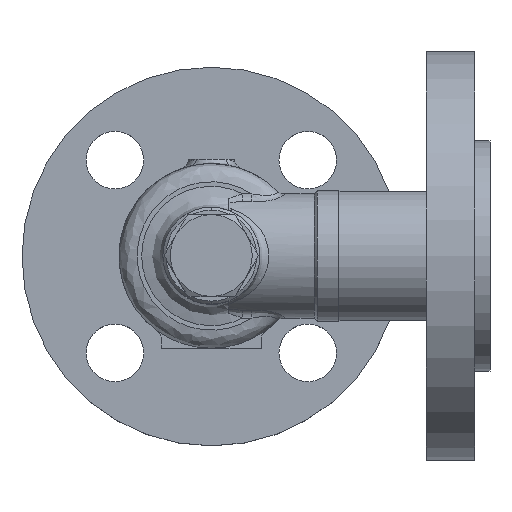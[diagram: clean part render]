
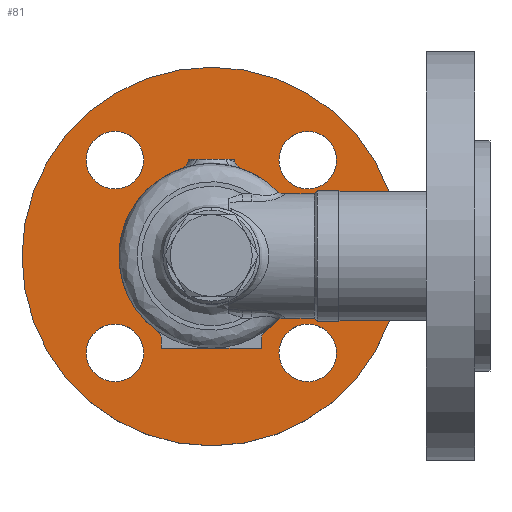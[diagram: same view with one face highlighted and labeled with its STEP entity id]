
A CAD part, top view. The second image highlights one B-rep face of the part: STEP entity #81.
In plain terms, the highlighted planar face has unit normal (0, 0, 1) as drawn and (0, 1, 0) by its records, which use the part's own axes.
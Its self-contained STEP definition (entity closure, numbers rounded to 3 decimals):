
#81=ADVANCED_FACE('',(#282,#283,#284,#285,#286,#287),#281,.T.);
#281=PLANE('',#1681);
#282=FACE_OUTER_BOUND('',#1682,.T.);
#283=FACE_BOUND('',#1683,.T.);
#284=FACE_BOUND('',#1684,.T.);
#285=FACE_BOUND('',#1685,.T.);
#286=FACE_BOUND('',#1686,.T.);
#287=FACE_BOUND('',#1687,.T.);
#1678=CARTESIAN_POINT('',(-118.253,-100.,-135.));
#1679=DIRECTION('',(0.,1.,0.));
#1680=DIRECTION('',(0.,0.,1.));
#1681=AXIS2_PLACEMENT_3D('',#1678,#1679,#1680);
#1682=EDGE_LOOP('',(#3540,#3541));
#1683=EDGE_LOOP('',(#3542,#3543));
#1684=EDGE_LOOP('',(#3544,#3545));
#1685=EDGE_LOOP('',(#3546,#3547));
#1686=EDGE_LOOP('',(#3548,#3549));
#1687=EDGE_LOOP('',(#3550,#3551));
#3540=ORIENTED_EDGE('',*,*,#4205,.T.);
#3541=ORIENTED_EDGE('',*,*,#4206,.T.);
#3542=ORIENTED_EDGE('',*,*,#4207,.F.);
#3543=ORIENTED_EDGE('',*,*,#4208,.F.);
#3544=ORIENTED_EDGE('',*,*,#4209,.F.);
#3545=ORIENTED_EDGE('',*,*,#4210,.F.);
#3546=ORIENTED_EDGE('',*,*,#4211,.F.);
#3547=ORIENTED_EDGE('',*,*,#4212,.F.);
#3548=ORIENTED_EDGE('',*,*,#4213,.F.);
#3549=ORIENTED_EDGE('',*,*,#4214,.F.);
#3550=ORIENTED_EDGE('',*,*,#4215,.F.);
#3551=ORIENTED_EDGE('',*,*,#4216,.F.);
#4205=EDGE_CURVE('',#4753,#4754,#4755,.T.);
#4206=EDGE_CURVE('',#4754,#4753,#4761,.T.);
#4207=EDGE_CURVE('',#4767,#4768,#4769,.T.);
#4208=EDGE_CURVE('',#4768,#4767,#4775,.T.);
#4209=EDGE_CURVE('',#4781,#4782,#4783,.T.);
#4210=EDGE_CURVE('',#4782,#4781,#4789,.T.);
#4211=EDGE_CURVE('',#4795,#4796,#4797,.T.);
#4212=EDGE_CURVE('',#4796,#4795,#4803,.T.);
#4213=EDGE_CURVE('',#4809,#4810,#4811,.T.);
#4214=EDGE_CURVE('',#4810,#4809,#4817,.T.);
#4215=EDGE_CURVE('',#4823,#4824,#4825,.T.);
#4216=EDGE_CURVE('',#4824,#4823,#4831,.T.);
#4753=VERTEX_POINT('',#6892);
#4754=VERTEX_POINT('',#6893);
#4755=CIRCLE('',#6897,62.5);
#4761=CIRCLE('',#6901,62.5);
#4767=VERTEX_POINT('',#6902);
#4768=VERTEX_POINT('',#6903);
#4769=CIRCLE('',#6907,9.5);
#4775=CIRCLE('',#6911,9.5);
#4781=VERTEX_POINT('',#6912);
#4782=VERTEX_POINT('',#6913);
#4783=CIRCLE('',#6917,9.5);
#4789=CIRCLE('',#6921,9.5);
#4795=VERTEX_POINT('',#6922);
#4796=VERTEX_POINT('',#6923);
#4797=CIRCLE('',#6927,9.5);
#4803=CIRCLE('',#6931,9.5);
#4809=VERTEX_POINT('',#6932);
#4810=VERTEX_POINT('',#6933);
#4811=CIRCLE('',#6937,9.5);
#4817=CIRCLE('',#6941,9.5);
#4823=VERTEX_POINT('',#6942);
#4824=VERTEX_POINT('',#6943);
#4825=CIRCLE('',#6947,17.);
#4831=CIRCLE('',#6951,17.);
#6892=CARTESIAN_POINT('',(0.,-100.,62.5));
#6893=CARTESIAN_POINT('',(0.,-100.,-62.5));
#6894=CARTESIAN_POINT('',(0.,-100.,0.));
#6895=DIRECTION('',(0.,1.,0.));
#6896=DIRECTION('',(0.,0.,1.));
#6897=AXIS2_PLACEMENT_3D('',#6894,#6895,#6896);
#6898=CARTESIAN_POINT('',(0.,-100.,0.));
#6899=DIRECTION('',(0.,1.,0.));
#6900=DIRECTION('',(0.,0.,1.));
#6901=AXIS2_PLACEMENT_3D('',#6898,#6899,#6900);
#6902=CARTESIAN_POINT('',(31.82,-100.,-41.32));
#6903=CARTESIAN_POINT('',(31.82,-100.,-22.32));
#6904=CARTESIAN_POINT('',(31.82,-100.,-31.82));
#6905=DIRECTION('',(0.,1.,0.));
#6906=DIRECTION('',(0.,0.,1.));
#6907=AXIS2_PLACEMENT_3D('',#6904,#6905,#6906);
#6908=CARTESIAN_POINT('',(31.82,-100.,-31.82));
#6909=DIRECTION('',(0.,1.,0.));
#6910=DIRECTION('',(0.,0.,1.));
#6911=AXIS2_PLACEMENT_3D('',#6908,#6909,#6910);
#6912=CARTESIAN_POINT('',(31.82,-100.,22.32));
#6913=CARTESIAN_POINT('',(31.82,-100.,41.32));
#6914=CARTESIAN_POINT('',(31.82,-100.,31.82));
#6915=DIRECTION('',(0.,1.,0.));
#6916=DIRECTION('',(0.,0.,1.));
#6917=AXIS2_PLACEMENT_3D('',#6914,#6915,#6916);
#6918=CARTESIAN_POINT('',(31.82,-100.,31.82));
#6919=DIRECTION('',(0.,1.,0.));
#6920=DIRECTION('',(0.,0.,1.));
#6921=AXIS2_PLACEMENT_3D('',#6918,#6919,#6920);
#6922=CARTESIAN_POINT('',(-31.82,-100.,22.32));
#6923=CARTESIAN_POINT('',(-31.82,-100.,41.32));
#6924=CARTESIAN_POINT('',(-31.82,-100.,31.82));
#6925=DIRECTION('',(0.,1.,0.));
#6926=DIRECTION('',(0.,0.,1.));
#6927=AXIS2_PLACEMENT_3D('',#6924,#6925,#6926);
#6928=CARTESIAN_POINT('',(-31.82,-100.,31.82));
#6929=DIRECTION('',(0.,1.,0.));
#6930=DIRECTION('',(0.,0.,1.));
#6931=AXIS2_PLACEMENT_3D('',#6928,#6929,#6930);
#6932=CARTESIAN_POINT('',(-31.82,-100.,-41.32));
#6933=CARTESIAN_POINT('',(-31.82,-100.,-22.32));
#6934=CARTESIAN_POINT('',(-31.82,-100.,-31.82));
#6935=DIRECTION('',(0.,1.,0.));
#6936=DIRECTION('',(0.,0.,1.));
#6937=AXIS2_PLACEMENT_3D('',#6934,#6935,#6936);
#6938=CARTESIAN_POINT('',(-31.82,-100.,-31.82));
#6939=DIRECTION('',(0.,1.,0.));
#6940=DIRECTION('',(0.,0.,1.));
#6941=AXIS2_PLACEMENT_3D('',#6938,#6939,#6940);
#6942=CARTESIAN_POINT('',(0.,-100.,-17.));
#6943=CARTESIAN_POINT('',(0.,-100.,17.));
#6944=CARTESIAN_POINT('',(0.,-100.,0.));
#6945=DIRECTION('',(0.,1.,0.));
#6946=DIRECTION('',(0.,0.,1.));
#6947=AXIS2_PLACEMENT_3D('',#6944,#6945,#6946);
#6948=CARTESIAN_POINT('',(0.,-100.,0.));
#6949=DIRECTION('',(0.,1.,0.));
#6950=DIRECTION('',(0.,0.,1.));
#6951=AXIS2_PLACEMENT_3D('',#6948,#6949,#6950);
